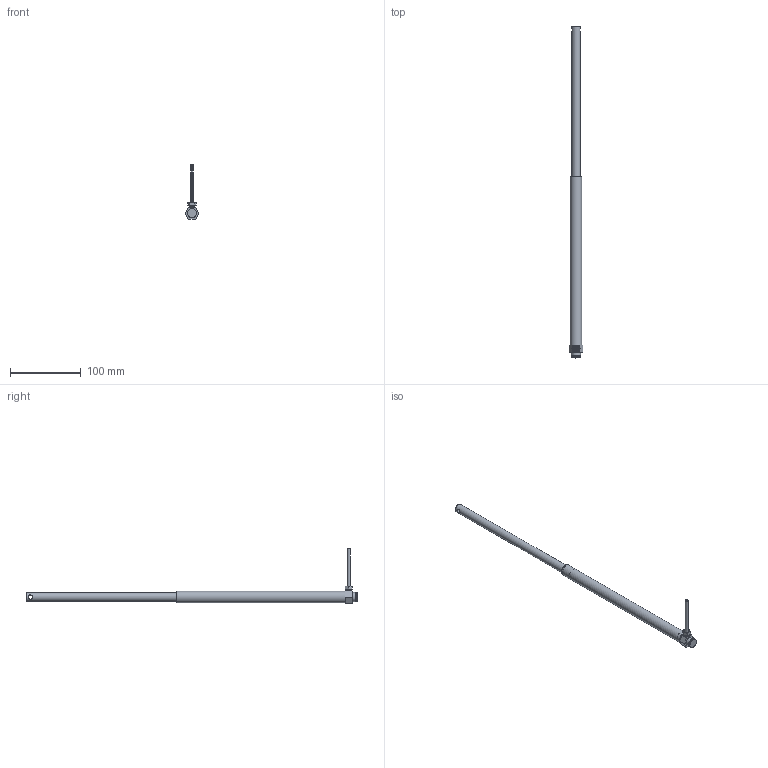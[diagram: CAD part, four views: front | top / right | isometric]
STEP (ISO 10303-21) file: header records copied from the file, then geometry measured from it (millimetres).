
FILE_DESCRIPTION(/* description */ ('Unknown'),/* implementation_level */ '2;1');
FILE_NAME(/* name */ '107.00022 Zylinder CB 1420_ausgefahren',/* time_stamp */ '2018-03-26T08:54:41+02:00',/* author */ ('Unknown'),/* organization */ ('Unknown'),/* preprocessor_version */ 'ST-DEVELOPER v16.7',/* originating_system */ 'DEX',/* authorisation */ $);
FILE_SCHEMA (('AUTOMOTIVE_DESIGN {1 0 10303 214 3 1 1}'));
Length unit declared in the file: millimetre
Products named in the file (9): 107.00022; 121.00002; 142.00021; 125.00021; 115.00001_oa_0; 125.00033; 120.00002; 122.00001; 113.00002_70mm
Assembly tree (8 placements, depth 2):
  107.00022
    121.00002
    142.00021
    125.00021
    115.00001_oa_0
    125.00033
    120.00002
    122.00001
    113.00002_70mm
Bounding box: 19.63 x 469 x 76.5 mm (x, y, z)
Volume: 43047.6 mm3; surface area: 37407.8 mm2
Topology: 7 solids, 7 shells, 91 faces, 188 edges, 121 vertices
Faces by surface type: plane 37, cylinder 28, cone 22, torus 3, sphere 1
Full cylindrical faces by diameter (mm): 2.2 x1, 2.78 x1, 3.5 x1, 4 x1, 4.1 x1, 4.2 x1, 6 x1, 6.917 x2, 7.763 x2, 8 x3, 8.1 x3, 9 x1, 12 x2, 12.5 x1, 13 x2, 13.9 x2, 14 x2, 16 x1
Entity records: 2733 total; most frequent: CARTESIAN_POINT 436, DIRECTION 380, ORIENTED_EDGE 248, AXIS2_PLACEMENT_3D 172, FACE_BOUND 164, EDGE_LOOP 162, EDGE_CURVE 124, VERTEX_POINT 108
